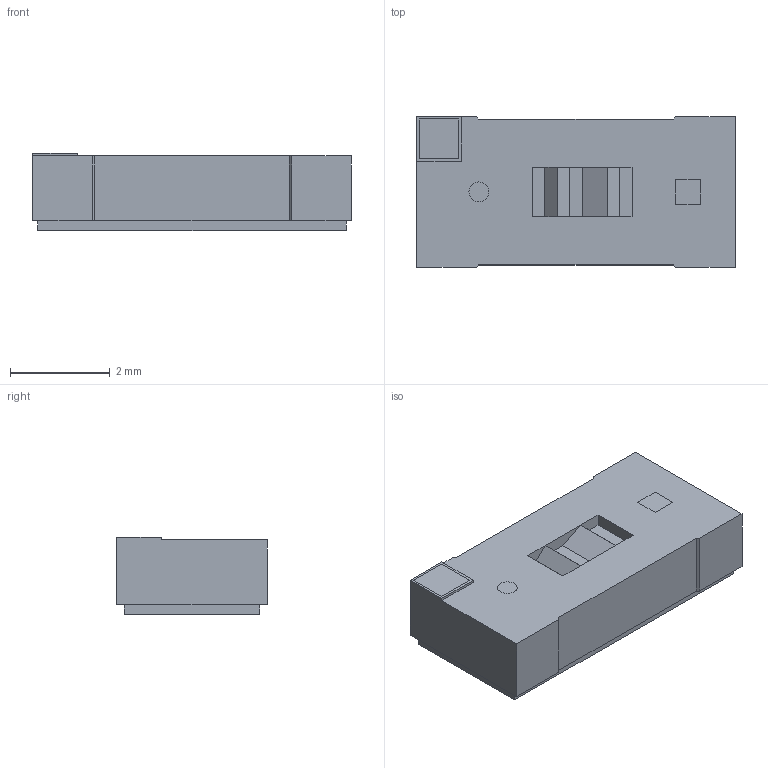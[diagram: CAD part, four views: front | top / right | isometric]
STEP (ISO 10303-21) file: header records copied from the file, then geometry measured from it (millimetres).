
FILE_DESCRIPTION(('FreeCAD Model'),'2;1');
FILE_NAME('Open CASCADE Shape Model','2025-02-02T20:41:52',( 'Krisjanis Rijnieks'),(''),'Open CASCADE STEP processor 7.7', 'FreeCAD','Unknown');
FILE_SCHEMA(('AUTOMOTIVE_DESIGN { 1 0 10303 214 1 1 1 1 }'));
Length unit declared in the file: millimetre
Products named in the file (5): VL53L5CXV0GC; Body; Body001; Body002; Body003
Assembly tree (4 placements, depth 2):
  VL53L5CXV0GC
    Body
    Body001
    Body002
    Body003
Bounding box: 6.4 x 3.03 x 1.55 mm (x, y, z)
Volume: 27.8 mm3; surface area: 70.4 mm2
Topology: 4 solids, 4 shells, 64 faces, 145 edges, 94 vertices
Faces by surface type: plane 62, cylinder 2
Full cylindrical faces by diameter (mm): 0.4 x2
Entity records: 1869 total; most frequent: CARTESIAN_POINT 308, ORIENTED_EDGE 290, DIRECTION 287, EDGE_CURVE 145, LINE 141, VECTOR 141, VERTEX_POINT 94, AXIS2_PLACEMENT_3D 73
